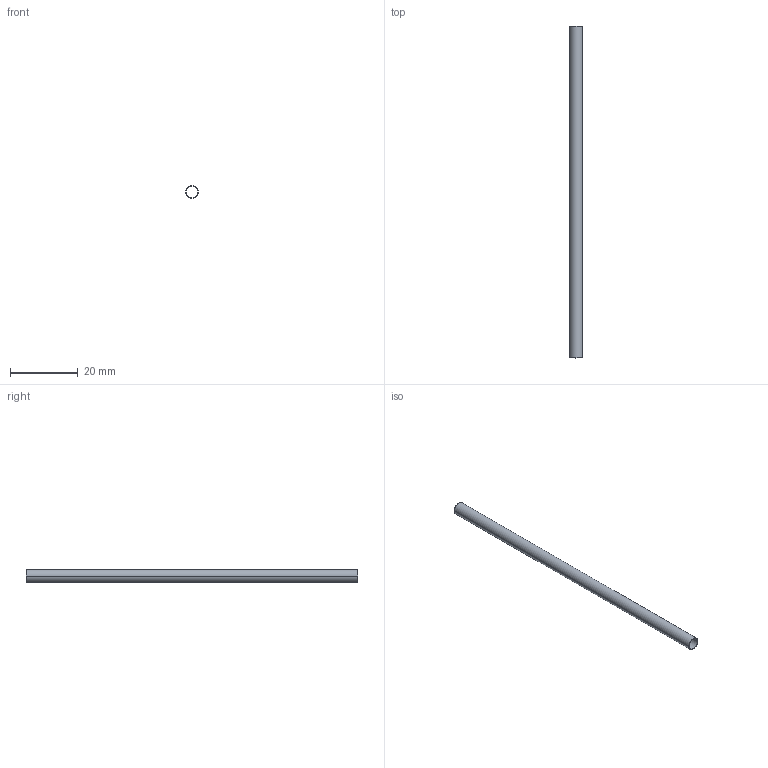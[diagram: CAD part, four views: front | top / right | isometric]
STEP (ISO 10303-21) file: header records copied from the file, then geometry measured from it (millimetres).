
FILE_DESCRIPTION(/* description */ ('(C) Elphel, Inc. 2012. Licensed under CERN OHL v.1.1 or later, see http://ohwr.org/cernohl'),/* implementation_level */ '2;1');
FILE_NAME(/* name */ '0353-24-01',/* time_stamp */ '2012-06-04T17:42:15-06:00',/* author */ (''),/* organization */ ('Elphel, Inc'),/* preprocessor_version */ 'ST-DEVELOPER v12',/* originating_system */ 'VariCAD 2012-1.04; kernel version (20100102)',/* authorisation */ '');
FILE_SCHEMA (('AUTOMOTIVE_DESIGN'));
Length unit declared in the file: millimetre
Products named in the file (1): Part
Bounding box: 3.76 x 98 x 3.76 mm (x, y, z)
Volume: 182.7 mm3; surface area: 2216.8 mm2
Topology: 1 solids, 1 shells, 6 faces, 12 edges, 8 vertices
Faces by surface type: cylinder 4, plane 2
Entity records: 195 total; most frequent: DIRECTION 36, CARTESIAN_POINT 28, ORIENTED_EDGE 24, AXIS2_PLACEMENT_3D 16, EDGE_CURVE 12, EDGE_LOOP 8, CIRCLE 8, VERTEX_POINT 8
